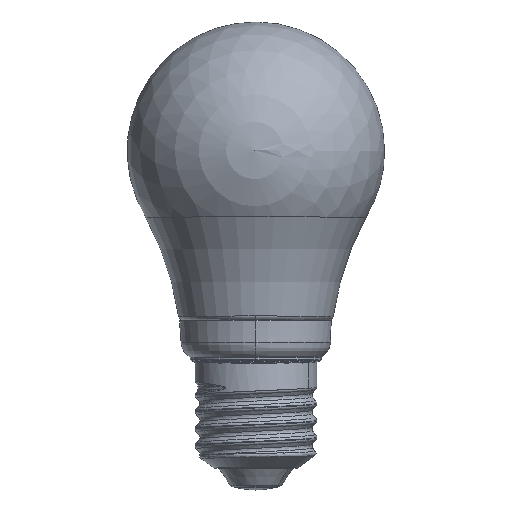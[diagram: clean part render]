
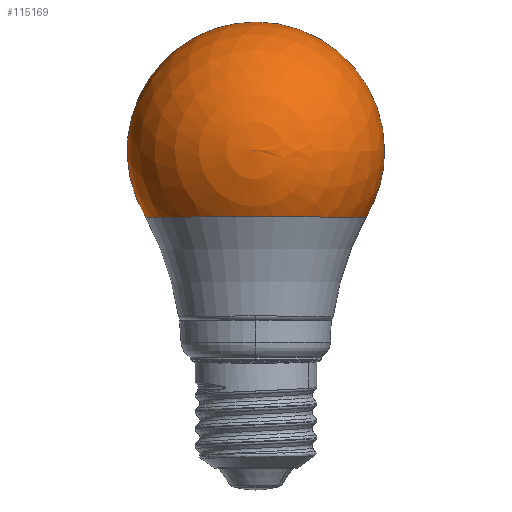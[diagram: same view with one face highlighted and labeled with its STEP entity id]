
A CAD part, top view. The second image highlights one B-rep face of the part: STEP entity #115169.
In plain terms, the highlighted spherical face has radius 27.5 mm.
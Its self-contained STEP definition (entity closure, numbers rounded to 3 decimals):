
#115131 = VERTEX_POINT('',#115132);
#115132 = CARTESIAN_POINT('',(23.55,-14.2,0.));
#115140 = VERTEX_POINT('',#115141);
#115141 = CARTESIAN_POINT('',(-23.55,-14.2,
    0.));
#115169 = ADVANCED_FACE('',(#115170),#115218,.T.);
#115170 = FACE_BOUND('',#115171,.T.);
#115171 = EDGE_LOOP('',(#115172,#115181,#115194,#115195,#115204,#115211)
  );
#115172 = ORIENTED_EDGE('',*,*,#115173,.F.);
#115173 = EDGE_CURVE('',#115174,#115131,#115176,.T.);
#115174 = VERTEX_POINT('',#115175);
#115175 = CARTESIAN_POINT('',(27.5,0.,0.));
#115176 = CIRCLE('',#115177,27.5);
#115177 = AXIS2_PLACEMENT_3D('',#115178,#115179,#115180);
#115178 = CARTESIAN_POINT('',(0.,0.,0.));
#115179 = DIRECTION('',(0.,0.,-1.));
#115180 = DIRECTION('',(-1.,0.,0.));
#115181 = ORIENTED_EDGE('',*,*,#115182,.T.);
#115182 = EDGE_CURVE('',#115174,#115183,#115185,.T.);
#115183 = VERTEX_POINT('',#115184);
#115184 = CARTESIAN_POINT('',(0.,0.,27.5
    ));
#115185 = B_SPLINE_CURVE_WITH_KNOTS('',7,(#115186,#115187,#115188,
    #115189,#115190,#115191,#115192,#115193),.UNSPECIFIED.,.F.,.F.,(8,8)
  ,(0.,1.571),.PIECEWISE_BEZIER_KNOTS.);
#115186 = CARTESIAN_POINT('',(27.5,0.,
    0.));
#115187 = CARTESIAN_POINT('',(27.5,0.,6.171));
#115188 = CARTESIAN_POINT('',(25.884,0.,
    12.342));
#115189 = CARTESIAN_POINT('',(22.653,0.,
    18.006));
#115190 = CARTESIAN_POINT('',(18.006,0.,
    22.653));
#115191 = CARTESIAN_POINT('',(12.342,0.,
    25.884));
#115192 = CARTESIAN_POINT('',(6.171,0.,27.5));
#115193 = CARTESIAN_POINT('',(0.,0.,27.5
    ));
#115194 = ORIENTED_EDGE('',*,*,#115182,.F.);
#115195 = ORIENTED_EDGE('',*,*,#115196,.F.);
#115196 = EDGE_CURVE('',#115197,#115174,#115199,.T.);
#115197 = VERTEX_POINT('',#115198);
#115198 = CARTESIAN_POINT('',(0.,27.5,0.));
#115199 = CIRCLE('',#115200,27.5);
#115200 = AXIS2_PLACEMENT_3D('',#115201,#115202,#115203);
#115201 = CARTESIAN_POINT('',(0.,0.,0.));
#115202 = DIRECTION('',(0.,0.,-1.));
#115203 = DIRECTION('',(-1.,0.,0.));
#115204 = ORIENTED_EDGE('',*,*,#115205,.T.);
#115205 = EDGE_CURVE('',#115197,#115140,#115206,.T.);
#115206 = CIRCLE('',#115207,27.5);
#115207 = AXIS2_PLACEMENT_3D('',#115208,#115209,#115210);
#115208 = CARTESIAN_POINT('',(0.,0.,0.));
#115209 = DIRECTION('',(0.,0.,1.));
#115210 = DIRECTION('',(1.,0.,0.));
#115211 = ORIENTED_EDGE('',*,*,#115212,.F.);
#115212 = EDGE_CURVE('',#115131,#115140,#115213,.T.);
#115213 = CIRCLE('',#115214,23.55);
#115214 = AXIS2_PLACEMENT_3D('',#115215,#115216,#115217);
#115215 = CARTESIAN_POINT('',(0.,-14.2,0.));
#115216 = DIRECTION('',(0.,-1.,-0.));
#115217 = DIRECTION('',(1.,0.,0.));
#115218 = SPHERICAL_SURFACE('',#115219,27.5);
#115219 = AXIS2_PLACEMENT_3D('',#115220,#115221,#115222);
#115220 = CARTESIAN_POINT('',(0.,0.,0.));
#115221 = DIRECTION('',(0.,-0.,1.));
#115222 = DIRECTION('',(1.,0.,0.));
